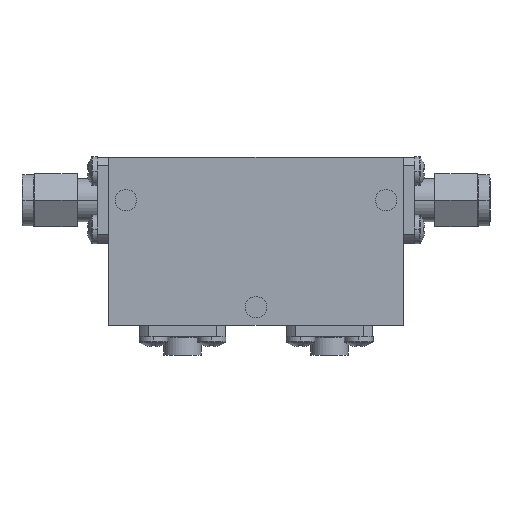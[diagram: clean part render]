
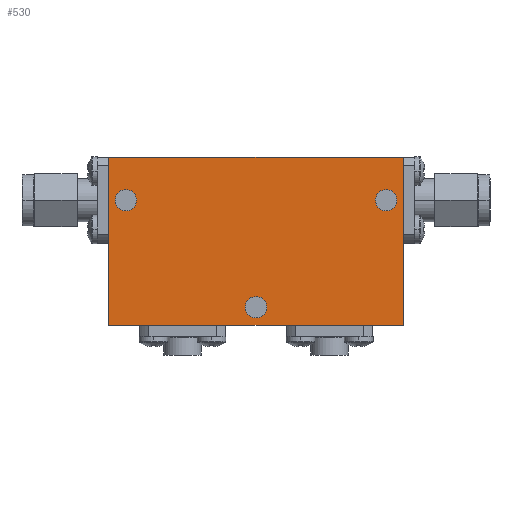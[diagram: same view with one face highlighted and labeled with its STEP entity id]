
A CAD part, top view. The second image highlights one B-rep face of the part: STEP entity #530.
In plain terms, the highlighted planar face has unit normal (0, 0, 1).
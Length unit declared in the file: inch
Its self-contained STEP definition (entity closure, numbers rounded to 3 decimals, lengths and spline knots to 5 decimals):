
#15 = CARTESIAN_POINT ( 'NONE',  ( 0.6975, 0.24, 0.25 ) ) ;
#95 = AXIS2_PLACEMENT_3D ( 'NONE', #3528, #2187, #1472 ) ;
#100 = CARTESIAN_POINT ( 'NONE',  ( 0., -0.385, 0.25 ) ) ;
#172 = EDGE_LOOP ( 'NONE', ( #1398, #1549 ) ) ;
#305 = VERTEX_POINT ( 'NONE', #1982 ) ;
#332 = VERTEX_POINT ( 'NONE', #3039 ) ;
#338 = CARTESIAN_POINT ( 'NONE',  ( 0.86, 0.49, 0.25 ) ) ;
#349 = AXIS2_PLACEMENT_3D ( 'NONE', #3939, #830, #4279 ) ;
#375 = PLANE ( 'NONE',  #4157 ) ;
#384 = EDGE_CURVE ( 'NONE', #305, #3583, #2134, .T. ) ;
#389 = CARTESIAN_POINT ( 'NONE',  ( -0.86, 0.49, 0.25 ) ) ;
#530 = ADVANCED_FACE ( 'NONE', ( #1335, #4107, #3378, #2936 ), #375, .T. ) ;
#531 = CARTESIAN_POINT ( 'NONE',  ( 0.86, -0.49, 0.25 ) ) ;
#579 = EDGE_CURVE ( 'NONE', #1053, #3494, #3629, .T. ) ;
#700 = ORIENTED_EDGE ( 'NONE', *, *, #1971, .T. ) ;
#758 = DIRECTION ( 'NONE',  ( -1., 0., 0. ) ) ;
#830 = DIRECTION ( 'NONE',  ( 0., 0., 1. ) ) ;
#840 = EDGE_LOOP ( 'NONE', ( #2767, #2748 ) ) ;
#942 = CARTESIAN_POINT ( 'NONE',  ( 0.86, 0.49, 0.25 ) ) ;
#952 = DIRECTION ( 'NONE',  ( 0., 0., 1. ) ) ;
#987 = CIRCLE ( 'NONE', #349, 0.0625 ) ;
#1053 = VERTEX_POINT ( 'NONE', #15 ) ;
#1130 = AXIS2_PLACEMENT_3D ( 'NONE', #100, #2825, #1815 ) ;
#1308 = CARTESIAN_POINT ( 'NONE',  ( -0.76, 0.24, 0.25 ) ) ;
#1315 = VERTEX_POINT ( 'NONE', #4308 ) ;
#1320 = LINE ( 'NONE', #2641, #3411 ) ;
#1333 = ORIENTED_EDGE ( 'NONE', *, *, #3773, .F. ) ;
#1335 = FACE_BOUND ( 'NONE', #172, .T. ) ;
#1388 = CARTESIAN_POINT ( 'NONE',  ( 0., 0., 0.25 ) ) ;
#1398 = ORIENTED_EDGE ( 'NONE', *, *, #2855, .F. ) ;
#1424 = VERTEX_POINT ( 'NONE', #3775 ) ;
#1445 = CIRCLE ( 'NONE', #2359, 0.0625 ) ;
#1472 = DIRECTION ( 'NONE',  ( 1., 0., 0. ) ) ;
#1489 = CARTESIAN_POINT ( 'NONE',  ( 0.76, 0.24, 0.25 ) ) ;
#1549 = ORIENTED_EDGE ( 'NONE', *, *, #579, .F. ) ;
#1570 = EDGE_CURVE ( 'NONE', #2669, #305, #2551, .T. ) ;
#1709 = DIRECTION ( 'NONE',  ( 0., -1., 0. ) ) ;
#1728 = ORIENTED_EDGE ( 'NONE', *, *, #384, .T. ) ;
#1754 = DIRECTION ( 'NONE',  ( 0., 0., 1. ) ) ;
#1757 = VERTEX_POINT ( 'NONE', #531 ) ;
#1808 = CARTESIAN_POINT ( 'NONE',  ( 0.76, 0.24, 0.25 ) ) ;
#1815 = DIRECTION ( 'NONE',  ( 1., 0., 0. ) ) ;
#1817 = DIRECTION ( 'NONE',  ( 0., 0., 1. ) ) ;
#1830 = DIRECTION ( 'NONE',  ( 1., 0., 0. ) ) ;
#1863 = ORIENTED_EDGE ( 'NONE', *, *, #4122, .F. ) ;
#1939 = EDGE_CURVE ( 'NONE', #1424, #332, #2601, .T. ) ;
#1950 = DIRECTION ( 'NONE',  ( 1., 0., 0. ) ) ;
#1971 = EDGE_CURVE ( 'NONE', #3583, #1757, #1320, .T. ) ;
#1982 = CARTESIAN_POINT ( 'NONE',  ( -0.86, 0.49, 0.25 ) ) ;
#2134 = LINE ( 'NONE', #4367, #3204 ) ;
#2187 = DIRECTION ( 'NONE',  ( 0., 0., 1. ) ) ;
#2357 = VERTEX_POINT ( 'NONE', #3885 ) ;
#2359 = AXIS2_PLACEMENT_3D ( 'NONE', #1808, #1817, #4168 ) ;
#2461 = ORIENTED_EDGE ( 'NONE', *, *, #1570, .T. ) ;
#2506 = DIRECTION ( 'NONE',  ( 1., 0., 0. ) ) ;
#2523 = EDGE_CURVE ( 'NONE', #1757, #2669, #2861, .T. ) ;
#2551 = LINE ( 'NONE', #389, #2766 ) ;
#2601 = CIRCLE ( 'NONE', #3928, 0.0625 ) ;
#2641 = CARTESIAN_POINT ( 'NONE',  ( -0.86, -0.49, 0.25 ) ) ;
#2669 = VERTEX_POINT ( 'NONE', #338 ) ;
#2748 = ORIENTED_EDGE ( 'NONE', *, *, #1939, .F. ) ;
#2758 = VECTOR ( 'NONE', #3666, 39.37008 ) ;
#2766 = VECTOR ( 'NONE', #758, 39.37008 ) ;
#2767 = ORIENTED_EDGE ( 'NONE', *, *, #3042, .F. ) ;
#2825 = DIRECTION ( 'NONE',  ( 0., 0., 1. ) ) ;
#2855 = EDGE_CURVE ( 'NONE', #3494, #1053, #1445, .T. ) ;
#2861 = LINE ( 'NONE', #942, #2758 ) ;
#2902 = CIRCLE ( 'NONE', #1130, 0.0625 ) ;
#2936 = FACE_OUTER_BOUND ( 'NONE', #4150, .T. ) ;
#3039 = CARTESIAN_POINT ( 'NONE',  ( -0.6975, 0.24, 0.25 ) ) ;
#3042 = EDGE_CURVE ( 'NONE', #332, #1424, #987, .T. ) ;
#3204 = VECTOR ( 'NONE', #1709, 39.37008 ) ;
#3378 = FACE_BOUND ( 'NONE', #840, .T. ) ;
#3411 = VECTOR ( 'NONE', #1950, 39.37008 ) ;
#3480 = AXIS2_PLACEMENT_3D ( 'NONE', #1489, #3837, #1830 ) ;
#3494 = VERTEX_POINT ( 'NONE', #3580 ) ;
#3528 = CARTESIAN_POINT ( 'NONE',  ( 0., -0.385, 0.25 ) ) ;
#3580 = CARTESIAN_POINT ( 'NONE',  ( 0.8225, 0.24, 0.25 ) ) ;
#3583 = VERTEX_POINT ( 'NONE', #3646 ) ;
#3604 = CIRCLE ( 'NONE', #95, 0.0625 ) ;
#3629 = CIRCLE ( 'NONE', #3480, 0.0625 ) ;
#3646 = CARTESIAN_POINT ( 'NONE',  ( -0.86, -0.49, 0.25 ) ) ;
#3666 = DIRECTION ( 'NONE',  ( 0., 1., 0. ) ) ;
#3691 = DIRECTION ( 'NONE',  ( 1., 0., 0. ) ) ;
#3773 = EDGE_CURVE ( 'NONE', #1315, #2357, #3604, .T. ) ;
#3775 = CARTESIAN_POINT ( 'NONE',  ( -0.8225, 0.24, 0.25 ) ) ;
#3835 = EDGE_LOOP ( 'NONE', ( #1333, #1863 ) ) ;
#3837 = DIRECTION ( 'NONE',  ( 0., 0., 1. ) ) ;
#3885 = CARTESIAN_POINT ( 'NONE',  ( -0.0625, -0.385, 0.25 ) ) ;
#3928 = AXIS2_PLACEMENT_3D ( 'NONE', #1308, #952, #3691 ) ;
#3939 = CARTESIAN_POINT ( 'NONE',  ( -0.76, 0.24, 0.25 ) ) ;
#4107 = FACE_BOUND ( 'NONE', #3835, .T. ) ;
#4122 = EDGE_CURVE ( 'NONE', #2357, #1315, #2902, .T. ) ;
#4150 = EDGE_LOOP ( 'NONE', ( #4156, #2461, #1728, #700 ) ) ;
#4156 = ORIENTED_EDGE ( 'NONE', *, *, #2523, .T. ) ;
#4157 = AXIS2_PLACEMENT_3D ( 'NONE', #1388, #1754, #2506 ) ;
#4168 = DIRECTION ( 'NONE',  ( 1., 0., 0. ) ) ;
#4279 = DIRECTION ( 'NONE',  ( 1., 0., 0. ) ) ;
#4308 = CARTESIAN_POINT ( 'NONE',  ( 0.0625, -0.385, 0.25 ) ) ;
#4367 = CARTESIAN_POINT ( 'NONE',  ( -0.86, 0.49, 0.25 ) ) ;
